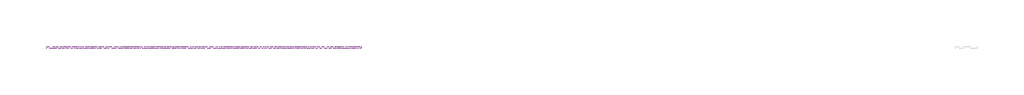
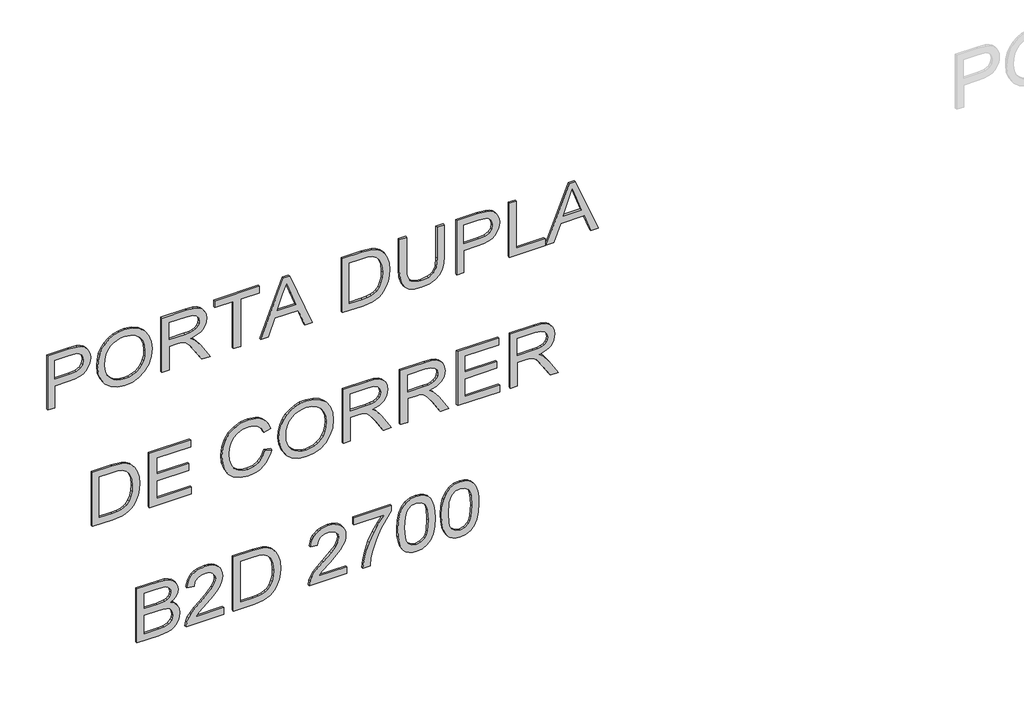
# One storey, part 10 of 13: 1 proxy.
"""IFC4 building model written with IfcOpenShell, lengths in millimetres."""

from ifc_helpers import new_model, si_unit, frame, origin, place, context, project, spatial, polyline, outline, extrude, element, save

model = new_model("IFC4")

# Units and contexts
model_context = context("Model", 3, world=origin())
ifc_project = project(units=[si_unit("LENGTHUNIT", "METRE", prefix="MILLI")], contexts=[model_context])

# Site, building, storey
site = spatial("IfcSite", under=ifc_project)
building = spatial("IfcBuilding", under=site)
storey = spatial("IfcBuildingStorey", under=building, Name="02 - Marelli - Planta Baixa - Portas", Elevation=-12000.0)

# Proxy
placement = place(None, origin())
element("IfcBuildingElementProxy", 1, Name="300mm Arial", ObjectType="300mm Arial", at=placement, inside=storey, context=model_context, shape_type="SweptSolid", body=[
    extrude(outline(polyline([(-5683.1381416, 52436.452421), (-5683.1381416, 52474.1235373), (-5560.7070137, 52474.1235373), (-5560.7070137, 52550.7165687), (-5559.0423476, 52579.9149028), (-5554.0483495, 52604.2342019), (-5545.7250194, 52623.6744661), (-5534.0723572, 52638.2356953), (-5520.0146665, 52648.8421931), (-5504.4762507, 52656.4182629), (-5487.4571099, 52660.9639049), (-5468.9572441, 52662.4791188), (-5447.5005267, 52660.2350386), (-5427.8648252, 52653.5027981), (-5411.2181649, 52643.0825406), (-5398.7285712, 52629.7744094), (-5390.0005708, 52613.2473108), (-5384.6386908, 52593.1701509), (-5381.7692112, 52548.1413947), (-5381.7692112, 52436.452421), (-5683.1381416, 52436.452421)]), holes=[polyline([(-5523.0358973, 52474.1235373), (-5419.4403275, 52474.1235373), (-5419.4403275, 52552.0409439), (-5422.0155015, 52589.7120602), (-5428.3430718, 52603.9398963), (-5439.085226, 52615.132706), (-5453.3590475, 52622.3891784), (-5470.2816192, 52624.8080025), (-5492.556874, 52620.7061183), (-5509.2035343, 52608.4004655), (-5519.5778066, 52586.3275458), (-5523.0358973, 52552.9238607), (-5523.0358973, 52474.1235373)])]), frame((0.0, 8778.3159498, 0.0), z_axis=(0.0, 1.0, 0.0), x_axis=(0.0, 0.0, 1.0)), (0.0, 0.0, 1.0), 10.0),
    extrude(outline(polyline([(-5536.426802, 52700.1502351), (-5574.971638, 52704.4544545), (-5611.4379408, 52717.3671125), (-5643.1309747, 52738.6306918), (-5667.3560041, 52767.987675), (-5682.7242744, 52803.6354404), (-5687.8470312, 52843.771366), (-5683.211718, 52881.5804381), (-5669.3057786, 52916.7223657), (-5646.3867303, 52946.6863542), (-5614.7120905, 52968.961609), (-5576.2500279, 52982.784775), (-5532.9687112, 52987.392497), (-5490.2576116, 52983.0147012), (-5452.3289779, 52969.881314), (-5420.7095204, 52948.3970055), (-5396.9259494, 52918.9664459), (-5382.0267286, 52883.5210156), (-5377.0603217, 52843.9920952), (-5379.7044735, 52813.7016115), (-5387.636929, 52786.3265925), (-5400.8576882, 52761.8670383), (-5419.3667511, 52740.322949), (-5442.5479153, 52722.7473867), (-5469.7849785, 52710.1934136), (-5501.0779408, 52702.6610297), (-5536.426802, 52700.1502351)]), holes=[polyline([(-5536.794684, 52737.8213514), (-5506.2581791, 52739.7849216), (-5480.4259653, 52745.675632), (-5459.2980424, 52755.4934828), (-5442.8744106, 52769.2384738), (-5430.5618601, 52785.7057916), (-5421.7671811, 52803.6906227), (-5416.4903738, 52823.1929669), (-5414.731438, 52844.2128244), (-5418.3826668, 52873.3766696), (-5429.3363532, 52899.5054883), (-5446.9303096, 52921.1645408), (-5470.5023484, 52936.9190872), (-5499.3259028, 52946.5208073), (-5532.6744056, 52949.7213807), (-5559.212493, 52947.8520803), (-5582.5408101, 52942.2441791), (-5602.6593567, 52932.8976772), (-5619.5681329, 52919.8125744), (-5632.9590375, 52903.830401), (-5642.5239694, 52885.7926869), (-5648.2629285, 52865.6994322), (-5650.1759149, 52843.5506368), (-5648.2813226, 52821.774322), (-5642.5975458, 52801.915592), (-5633.1245844, 52783.974447), (-5619.8624385, 52767.9508868), (-5603.3031502, 52754.7692151), (-5583.9387616, 52745.3537353), (-5561.7692729, 52739.7044474), (-5536.794684, 52737.8213514)])]), frame((0.0, 8778.3159498, 0.0), z_axis=(0.0, 1.0, 0.0), x_axis=(0.0, 0.0, 1.0)), (0.0, 0.0, 1.0), 10.0),
    extrude(outline(polyline([(-5683.1381416, 53039.1902819), (-5683.1381416, 53076.8613982), (-5551.2892346, 53076.8613982), (-5551.2892346, 53122.3316128), (-5552.6136098, 53144.1838033), (-5559.7873087, 53162.0996565), (-5579.3218426, 53182.0020724), (-5620.6717789, 53210.328986), (-5683.1381416, 53249.5452067), (-5683.1381416, 53293.3231641), (-5601.4683387, 53243.0704836), (-5562.6935764, 53212.536278), (-5546.580345, 53191.1255459), (-5536.5923489, 53228.2356422), (-5528.5771199, 53242.6175289), (-5518.547737, 53254.2173081), (-5493.9364315, 53269.5303961), (-5464.2483545, 53274.6347588), (-5440.3820101, 53271.5537471), (-5418.6677753, 53262.310712), (-5401.1565923, 53247.9081318), (-5389.8994033, 53229.3484852), (-5383.8017592, 53203.9554305), (-5381.7692112, 53169.0526262), (-5381.7692112, 53039.1902819), (-5683.1381416, 53039.1902819)]), holes=[polyline([(-5513.6181183, 53076.8613982), (-5419.4403275, 53076.8613982), (-5419.4403275, 53170.671307), (-5422.6960832, 53200.4789456), (-5432.4633501, 53221.0343521), (-5447.2706004, 53232.9813199), (-5465.6463061, 53236.9636425), (-5478.9544373, 53234.8759122), (-5491.2141048, 53228.6127212), (-5501.3492537, 53218.3304194), (-5508.2838293, 53204.1853567), (-5512.284546, 53185.3957838), (-5513.6181183, 53161.1799515), (-5513.6181183, 53076.8613982)])]), frame((0.0, 8778.3159498, 0.0), z_axis=(0.0, 1.0, 0.0), x_axis=(0.0, 0.0, 1.0)), (0.0, 0.0, 1.0), 10.0),
    extrude(outline(polyline([(-5683.1381416, 53415.9014449), (-5683.1381416, 53453.5725612), (-5419.4403275, 53453.5725612), (-5419.4403275, 53552.4592416), (-5381.7692112, 53552.4592416), (-5381.7692112, 53317.0147646), (-5419.4403275, 53317.0147646), (-5419.4403275, 53415.9014449), (-5683.1381416, 53415.9014449)])), frame((0.0, 8778.3159498, 0.0), z_axis=(0.0, 1.0, 0.0), x_axis=(0.0, 0.0, 1.0)), (0.0, 0.0, 1.0), 10.0),
    extrude(outline(polyline([(-5683.1381416, 53559.7433051), (-5683.1381416, 53599.5481369), (-5588.9603509, 53633.9818917), (-5588.9603509, 53758.1052769), (-5683.1381416, 53792.612608), (-5683.1381416, 53832.4174399), (-5381.7692112, 53712.1200275), (-5381.7692112, 53680.0407175), (-5683.1381416, 53559.7433051)]), holes=[polyline([(-5551.2892346, 53647.8142547), (-5470.7230776, 53677.3183907), (-5419.4403275, 53696.0803725), (-5477.1978007, 53717.196799), (-5551.2892346, 53744.3464902), (-5551.2892346, 53647.8142547)])]), frame((0.0, 8778.3159498, 0.0), z_axis=(0.0, 1.0, 0.0), x_axis=(0.0, 0.0, 1.0)), (0.0, 0.0, 1.0), 10.0),
    extrude(outline(polyline([(-5683.1381416, 53990.3859686), (-5683.1381416, 54099.3526156), (-5677.9877937, 54147.8026743), (-5671.6326322, 54167.3464053), (-5662.8678437, 54183.8183217), (-5651.0496346, 54198.1657195), (-5635.5342115, 54211.3358949), (-5615.8801159, 54222.777025), (-5591.6458894, 54231.9372866), (-5563.1810201, 54237.9521573), (-5530.8349956, 54239.9571141), (-5492.7592091, 54236.9956641), (-5459.171583, 54228.1113139), (-5430.6239402, 54213.2672754), (-5407.6681037, 54192.4267604), (-5394.4795341, 54172.1564624), (-5386.1102187, 54148.1337681), (-5381.7692112, 54094.3494204), (-5381.7692112, 53990.3859686), (-5683.1381416, 53990.3859686)]), holes=[polyline([(-5645.4670253, 54028.0570849), (-5419.4403275, 54028.0570849), (-5419.4403275, 54093.6872329), (-5420.9486437, 54125.435449), (-5425.4735922, 54147.1036986), (-5438.0551565, 54168.394869), (-5458.8772774, 54186.2095546), (-5489.1907538, 54198.266887), (-5530.2463845, 54202.2859978), (-5561.2312455, 54200.2350557), (-5587.2313055, 54194.0822293), (-5608.338535, 54184.250583), (-5624.6449044, 54171.163181), (-5633.4556782, 54158.986287), (-5640.0223718, 54143.2041494), (-5644.105862, 54122.290058), (-5645.4670253, 54094.7173024), (-5645.4670253, 54028.0570849)])]), frame((0.0, 8778.3159498, 0.0), z_axis=(0.0, 1.0, 0.0), x_axis=(0.0, 0.0, 1.0)), (0.0, 0.0, 1.0), 10.0),
    extrude(outline(polyline([(-5381.7692112, 54489.5282597), (-5554.3058669, 54489.5282597), (-5601.4683387, 54484.7641878), (-5618.2069695, 54478.809098), (-5630.3838635, 54470.4719723), (-5639.042886, 54459.3389434), (-5645.227902, 54444.9961441), (-5650.1759149, 54406.6812344), (-5647.6743173, 54382.5113873), (-5640.1695246, 54362.3882421), (-5628.0570099, 54346.9555924), (-5611.7322464, 54336.8572317), (-5588.1602075, 54331.2838194), (-5554.3058669, 54329.4260154), (-5381.7692112, 54329.4260154), (-5381.7692112, 54291.7548991), (-5555.6302421, 54291.7548991), (-5598.4057211, 54294.6151816), (-5631.0828393, 54303.1960291), (-5655.4458245, 54318.4631319), (-5673.2789042, 54341.3821802), (-5684.2049994, 54371.9623711), (-5687.8470312, 54410.2129015), (-5683.6623735, 54449.3187576), (-5671.1084004, 54480.1104806), (-5651.8865662, 54502.6432528), (-5627.698325, 54516.9722565), (-5596.3455819, 54524.6425961), (-5555.6302421, 54527.199376), (-5381.7692112, 54527.199376), (-5381.7692112, 54489.5282597)])), frame((0.0, 8778.3159498, 0.0), z_axis=(0.0, 1.0, 0.0), x_axis=(0.0, 0.0, 1.0)), (0.0, 0.0, 1.0), 10.0),
    extrude(outline(polyline([(-5683.1381416, 54593.1238295), (-5683.1381416, 54630.7949458), (-5560.7070137, 54630.7949458), (-5560.7070137, 54707.3879772), (-5559.0423476, 54736.5863113), (-5554.0483495, 54760.9056105), (-5545.7250194, 54780.3458746), (-5534.0723572, 54794.9071039), (-5520.0146665, 54805.5136016), (-5504.4762507, 54813.0896715), (-5487.4571099, 54817.6353134), (-5468.9572441, 54819.1505273), (-5447.5005267, 54816.9064472), (-5427.8648252, 54810.1742067), (-5411.2181649, 54799.7539491), (-5398.7285712, 54786.445818), (-5390.0005708, 54769.9187193), (-5384.6386908, 54749.8415595), (-5381.7692112, 54704.8128032), (-5381.7692112, 54593.1238295), (-5683.1381416, 54593.1238295)]), holes=[polyline([(-5523.0358973, 54630.7949458), (-5419.4403275, 54630.7949458), (-5419.4403275, 54708.7123524), (-5422.0155015, 54746.3834687), (-5428.3430718, 54760.6113049), (-5439.085226, 54771.8041146), (-5453.3590475, 54779.0605869), (-5470.2816192, 54781.479411), (-5492.556874, 54777.3775268), (-5509.2035343, 54765.0718741), (-5519.5778066, 54742.9989543), (-5523.0358973, 54709.5952692), (-5523.0358973, 54630.7949458)])]), frame((0.0, 8778.3159498, 0.0), z_axis=(0.0, 1.0, 0.0), x_axis=(0.0, 0.0, 1.0)), (0.0, 0.0, 1.0), 10.0),
    extrude(outline(polyline([(-5683.1381416, 54870.9483123), (-5683.1381416, 55059.3038938), (-5645.4670253, 55059.3038938), (-5645.4670253, 54908.6194286), (-5381.7692112, 54908.6194286), (-5381.7692112, 54870.9483123), (-5683.1381416, 54870.9483123)])), frame((0.0, 8778.3159498, 0.0), z_axis=(0.0, 1.0, 0.0), x_axis=(0.0, 0.0, 1.0)), (0.0, 0.0, 1.0), 10.0),
    extrude(outline(polyline([(-5683.1381416, 55066.5879573), (-5683.1381416, 55106.3927892), (-5588.9603509, 55140.8265439), (-5588.9603509, 55264.9499291), (-5683.1381416, 55299.4572602), (-5683.1381416, 55339.2620921), (-5381.7692112, 55218.9646797), (-5381.7692112, 55186.8853697), (-5683.1381416, 55066.5879573)]), holes=[polyline([(-5551.2892346, 55154.6589069), (-5470.7230776, 55184.163043), (-5419.4403275, 55202.9250247), (-5477.1978007, 55224.0414512), (-5551.2892346, 55251.1911425), (-5551.2892346, 55154.6589069)])]), frame((0.0, 8778.3159498, 0.0), z_axis=(0.0, 1.0, 0.0), x_axis=(0.0, 0.0, 1.0)), (0.0, 0.0, 1.0), 10.0),
    extrude(outline(polyline([(-6414.9870487, 52671.8968979), (-6414.9870487, 52780.8635449), (-6409.8367008, 52829.3136036), (-6403.4815393, 52848.8573346), (-6394.7167508, 52865.329251), (-6382.8985417, 52879.6766488), (-6367.3831185, 52892.8468242), (-6347.729023, 52904.2879542), (-6323.4947965, 52913.4482159), (-6295.0299271, 52919.4630866), (-6262.6839027, 52921.4680434), (-6224.6081162, 52918.5065934), (-6191.0204901, 52909.6222432), (-6162.4728472, 52894.7782047), (-6139.5170107, 52873.9376896), (-6126.3284412, 52853.6673917), (-6117.9591258, 52829.6446974), (-6113.6181183, 52775.8603497), (-6113.6181183, 52671.8968979), (-6414.9870487, 52671.8968979)]), holes=[polyline([(-6377.3159324, 52709.5680142), (-6151.2892346, 52709.5680142), (-6151.2892346, 52775.1981621), (-6152.7975508, 52806.9463783), (-6157.3224993, 52828.6146278), (-6169.9040635, 52849.9057983), (-6190.7261845, 52867.7204839), (-6221.0396609, 52879.7778163), (-6262.0952915, 52883.7969271), (-6293.0801526, 52881.745985), (-6319.0802126, 52875.5931586), (-6340.187442, 52865.7615123), (-6356.4938115, 52852.6741103), (-6365.3045853, 52840.4972163), (-6371.8712789, 52824.7150787), (-6375.954769, 52803.8009873), (-6377.3159324, 52776.2282317), (-6377.3159324, 52709.5680142)])]), frame((0.0, 8778.3159498, 0.0), z_axis=(0.0, 1.0, 0.0), x_axis=(0.0, 0.0, 1.0)), (0.0, 0.0, 1.0), 10.0),
    extrude(outline(polyline([(-6414.9870487, 52973.2658283), (-6414.9870487, 53194.5836366), (-6377.3159324, 53194.5836366), (-6377.3159324, 53010.9369447), (-6278.4292521, 53010.9369447), (-6278.4292521, 53180.456968), (-6240.7581358, 53180.456968), (-6240.7581358, 53010.9369447), (-6151.2892346, 53010.9369447), (-6151.2892346, 53189.8747471), (-6113.6181183, 53189.8747471), (-6113.6181183, 52973.2658283), (-6414.9870487, 52973.2658283)])), frame((0.0, 8778.3159498, 0.0), z_axis=(0.0, 1.0, 0.0), x_axis=(0.0, 0.0, 1.0)), (0.0, 0.0, 1.0), 10.0),
    extrude(outline(polyline([(-6307.8598117, 53580.7125788), (-6340.1230627, 53568.5264877), (-6363.3364166, 53548.7436334), (-6377.3527206, 53522.5412383), (-6382.024822, 53491.0965248), (-6378.5943223, 53464.1215775), (-6368.3028235, 53439.1147988), (-6351.0767491, 53418.2558897), (-6326.8425227, 53403.7245509), (-6296.7497755, 53395.1988857), (-6261.9481387, 53392.3569973), (-6233.5292546, 53394.7574273), (-6205.9564991, 53401.9587173), (-6181.5659228, 53415.0829075), (-6162.6935764, 53435.2520379), (-6150.6086529, 53461.831512), (-6146.580345, 53494.1867335), (-6150.2131797, 53522.2561297), (-6161.1116838, 53545.1016016), (-6179.956439, 53562.9438784), (-6207.428027, 53576.0036892), (-6198.4517064, 53613.6748055), (-6160.6334373, 53597.0373423), (-6145.3111522, 53585.2352281), (-6132.3801, 53571.1108587), (-6122.1115938, 53554.9309487), (-6114.7769466, 53536.9622125), (-6108.9092287, 53495.6582615), (-6113.4433743, 53457.8032042), (-6127.0458111, 53423.2590848), (-6149.3854453, 53394.1320279), (-6180.131183, 53372.5281577), (-6218.0782108, 53359.1464501), (-6262.0217151, 53354.6858809), (-6303.6843511, 53358.6314153), (-6342.5878721, 53370.4680185), (-6375.6788575, 53389.8553997), (-6399.9038869, 53416.4532679), (-6414.7479254, 53451.1537371), (-6419.6959383, 53494.8489211), (-6418.0611626, 53517.2713287), (-6413.1568358, 53537.8911145), (-6404.9829577, 53556.7082786), (-6393.5395284, 53573.7228209), (-6378.9828977, 53588.5990491), (-6361.4694155, 53601.0012708), (-6340.9990817, 53610.9294862), (-6317.5718964, 53618.3836951), (-6307.8598117, 53580.7125788)])), frame((0.0, 8778.3159498, 0.0), z_axis=(0.0, 1.0, 0.0), x_axis=(0.0, 0.0, 1.0)), (0.0, 0.0, 1.0), 10.0),
    extrude(outline(polyline([(-6268.275709, 53656.0548114), (-6306.8205451, 53660.3590307), (-6343.2868479, 53673.2716888), (-6374.9798817, 53694.5352681), (-6399.2049111, 53723.8922513), (-6414.5731815, 53759.5400166), (-6419.6959383, 53799.6759423), (-6415.0606251, 53837.4850144), (-6401.1546857, 53872.626942), (-6378.2356374, 53902.5909305), (-6346.5609976, 53924.8661853), (-6308.098935, 53938.6893512), (-6264.8176183, 53943.2970732), (-6222.1065186, 53938.9192775), (-6184.1778849, 53925.7858903), (-6152.5584275, 53904.3015817), (-6128.7748565, 53874.8710221), (-6113.8756357, 53839.4255919), (-6108.9092287, 53799.8966715), (-6111.5533806, 53769.6061877), (-6119.4858361, 53742.2311688), (-6132.7065953, 53717.7716146), (-6151.2156582, 53696.2275253), (-6174.3968224, 53678.6519629), (-6201.6338856, 53666.0979899), (-6232.9268478, 53658.565606), (-6268.275709, 53656.0548114)]), holes=[polyline([(-6268.643591, 53693.7259277), (-6238.1070862, 53695.6894978), (-6212.2748723, 53701.5802083), (-6191.1469495, 53711.398059), (-6174.7233177, 53725.1430501), (-6162.4107671, 53741.6103679), (-6153.6160882, 53759.5951989), (-6148.3392808, 53779.0975432), (-6146.580345, 53800.1174007), (-6150.2315738, 53829.2812459), (-6161.1852602, 53855.4100646), (-6178.7792167, 53877.069117), (-6202.3512555, 53892.8236635), (-6231.1748098, 53902.4253836), (-6264.5233127, 53905.6259569), (-6291.0614001, 53903.7566565), (-6314.3897171, 53898.1487554), (-6334.5082637, 53888.8022534), (-6351.41704, 53875.7171507), (-6364.8079446, 53859.7349773), (-6374.3728765, 53841.6972632), (-6380.1118356, 53821.6040085), (-6382.024822, 53799.4552131), (-6380.1302297, 53777.6788983), (-6374.4464529, 53757.8201683), (-6364.9734915, 53739.8790233), (-6351.7113455, 53723.8554631), (-6335.1520572, 53710.6737914), (-6315.7876687, 53701.2583116), (-6293.61818, 53695.6090237), (-6268.643591, 53693.7259277)])]), frame((0.0, 8778.3159498, 0.0), z_axis=(0.0, 1.0, 0.0), x_axis=(0.0, 0.0, 1.0)), (0.0, 0.0, 1.0), 10.0),
    extrude(outline(polyline([(-6414.9870487, 53995.0948581), (-6414.9870487, 54032.7659745), (-6283.1381416, 54032.7659745), (-6283.1381416, 54078.2361891), (-6284.4625168, 54100.0883796), (-6291.6362157, 54118.0042327), (-6311.1707497, 54137.9066487), (-6352.5206859, 54166.2335623), (-6414.9870487, 54205.449783), (-6414.9870487, 54249.2277404), (-6333.3172458, 54198.9750599), (-6294.5424835, 54168.4408543), (-6278.4292521, 54147.0301222), (-6268.4412559, 54184.1402184), (-6260.426027, 54198.5221052), (-6250.3966441, 54210.1218843), (-6225.7853386, 54225.4349724), (-6196.0972616, 54230.5393351), (-6172.2309172, 54227.4583234), (-6150.5166824, 54218.2152882), (-6133.0054994, 54203.8127081), (-6121.7483104, 54185.2530615), (-6115.6506663, 54159.8600067), (-6113.6181183, 54124.9572024), (-6113.6181183, 53995.0948581), (-6414.9870487, 53995.0948581)]), holes=[polyline([(-6245.4670253, 54032.7659745), (-6151.2892346, 54032.7659745), (-6151.2892346, 54126.5758832), (-6154.5449902, 54156.3835219), (-6164.3122572, 54176.9389284), (-6179.1195075, 54188.8858962), (-6197.4952132, 54192.8682188), (-6210.8033443, 54190.7804884), (-6223.0630118, 54184.5172975), (-6233.1981608, 54174.2349957), (-6240.1327364, 54160.089933), (-6244.1334531, 54141.3003601), (-6245.4670253, 54117.0845277), (-6245.4670253, 54032.7659745)])]), frame((0.0, 8778.3159498, 0.0), z_axis=(0.0, 1.0, 0.0), x_axis=(0.0, 0.0, 1.0)), (0.0, 0.0, 1.0), 10.0),
    extrude(outline(polyline([(-6414.9870487, 54296.4637886), (-6414.9870487, 54334.1349049), (-6283.1381416, 54334.1349049), (-6283.1381416, 54379.6051195), (-6284.4625168, 54401.45731), (-6291.6362157, 54419.3731632), (-6311.1707497, 54439.2755791), (-6352.5206859, 54467.6024928), (-6414.9870487, 54506.8187134), (-6414.9870487, 54550.5966709), (-6333.3172458, 54500.3439903), (-6294.5424835, 54469.8097847), (-6278.4292521, 54448.3990526), (-6268.4412559, 54485.5091489), (-6260.426027, 54499.8910356), (-6250.3966441, 54511.4908148), (-6225.7853386, 54526.8039028), (-6196.0972616, 54531.9082655), (-6172.2309172, 54528.8272538), (-6150.5166824, 54519.5842187), (-6133.0054994, 54505.1816386), (-6121.7483104, 54486.6219919), (-6115.6506663, 54461.2289372), (-6113.6181183, 54426.3261329), (-6113.6181183, 54296.4637886), (-6414.9870487, 54296.4637886)]), holes=[polyline([(-6245.4670253, 54334.1349049), (-6151.2892346, 54334.1349049), (-6151.2892346, 54427.9448137), (-6154.5449902, 54457.7524523), (-6164.3122572, 54478.3078588), (-6179.1195075, 54490.2548266), (-6197.4952132, 54494.2371492), (-6210.8033443, 54492.1494189), (-6223.0630118, 54485.8862279), (-6233.1981608, 54475.6039261), (-6240.1327364, 54461.4588634), (-6244.1334531, 54442.6692905), (-6245.4670253, 54418.4534582), (-6245.4670253, 54334.1349049)])]), frame((0.0, 8778.3159498, 0.0), z_axis=(0.0, 1.0, 0.0), x_axis=(0.0, 0.0, 1.0)), (0.0, 0.0, 1.0), 10.0),
    extrude(outline(polyline([(-6414.9870487, 54597.832719), (-6414.9870487, 54819.1505273), (-6377.3159324, 54819.1505273), (-6377.3159324, 54635.5038354), (-6278.4292521, 54635.5038354), (-6278.4292521, 54805.0238587), (-6240.7581358, 54805.0238587), (-6240.7581358, 54635.5038354), (-6151.2892346, 54635.5038354), (-6151.2892346, 54814.4416378), (-6113.6181183, 54814.4416378), (-6113.6181183, 54597.832719), (-6414.9870487, 54597.832719)])), frame((0.0, 8778.3159498, 0.0), z_axis=(0.0, 1.0, 0.0), x_axis=(0.0, 0.0, 1.0)), (0.0, 0.0, 1.0), 10.0),
    extrude(outline(polyline([(-6414.9870487, 54875.6572018), (-6414.9870487, 54913.3283181), (-6283.1381416, 54913.3283181), (-6283.1381416, 54958.7985327), (-6284.4625168, 54980.6507232), (-6291.6362157, 54998.5665764), (-6311.1707497, 55018.4689923), (-6352.5206859, 55046.795906), (-6414.9870487, 55086.0121266), (-6414.9870487, 55129.7900841), (-6333.3172458, 55079.5374035), (-6294.5424835, 55049.0031979), (-6278.4292521, 55027.5924658), (-6268.4412559, 55064.7025621), (-6260.426027, 55079.0844488), (-6250.3966441, 55090.684228), (-6225.7853386, 55105.997316), (-6196.0972616, 55111.1016787), (-6172.2309172, 55108.020667), (-6150.5166824, 55098.7776319), (-6133.0054994, 55084.3750518), (-6121.7483104, 55065.8154051), (-6115.6506663, 55040.4223504), (-6113.6181183, 55005.5195461), (-6113.6181183, 54875.6572018), (-6414.9870487, 54875.6572018)]), holes=[polyline([(-6245.4670253, 54913.3283181), (-6151.2892346, 54913.3283181), (-6151.2892346, 55007.1382269), (-6154.5449902, 55036.9458655), (-6164.3122572, 55057.501272), (-6179.1195075, 55069.4482398), (-6197.4952132, 55073.4305624), (-6210.8033443, 55071.3428321), (-6223.0630118, 55065.0796411), (-6233.1981608, 55054.7973394), (-6240.1327364, 55040.6522766), (-6244.1334531, 55021.8627037), (-6245.4670253, 54997.6468714), (-6245.4670253, 54913.3283181)])]), frame((0.0, 8778.3159498, 0.0), z_axis=(0.0, 1.0, 0.0), x_axis=(0.0, 0.0, 1.0)), (0.0, 0.0, 1.0), 10.0),
    extrude(outline(polyline([(-7146.8359558, 52907.3413748), (-7146.8359558, 53021.4583697), (-7141.6488197, 53069.7612757), (-7135.2292788, 53087.7966905), (-7126.3449287, 53102.5395614), (-7114.0760641, 53114.5784997), (-7097.5029802, 53124.5021166), (-7078.0144315, 53131.1515836), (-7056.9991726, 53133.3680726), (-7031.7808618, 53130.121514), (-7010.1310064, 53120.3818382), (-6993.1716464, 53104.6088977), (-6982.024822, 53083.2625449), (-6970.2801893, 53101.1324128), (-6955.3533773, 53113.8335387), (-6938.2928498, 53121.4211049), (-6920.1470704, 53123.9502936), (-6900.4285954, 53120.9428583), (-6881.5930373, 53111.9205523), (-6865.5809734, 53097.5915486), (-6854.3329814, 53078.66402), (-6847.6835144, 53053.969941), (-6845.4670253, 53022.3412865), (-6845.4670253, 52907.3413748), (-7146.8359558, 52907.3413748)]), holes=[polyline([(-6967.8981533, 52945.0124911), (-6883.1381416, 52945.0124911), (-6883.1381416, 53008.5824999), (-6887.074479, 53056.9957704), (-6892.6754824, 53069.4853642), (-6901.6058178, 53078.7008082), (-6913.0469479, 53084.384585), (-6926.1803351, 53086.2791773), (-6939.7091955, 53084.2466292), (-6950.7180642, 53078.1489852), (-6959.0781825, 53068.0414274), (-6964.6607918, 53053.9791381), (-6967.8981533, 53013.8064242), (-6967.8981533, 52945.0124911)]), polyline([(-7109.1648395, 52945.0124911), (-7005.5692696, 52945.0124911), (-7005.5692696, 53018.5888902), (-7006.8292655, 53045.4166846), (-7010.609253, 53065.1259625), (-7017.4978433, 53079.041099), (-7028.0836477, 53088.4864692), (-7041.6217052, 53093.8943346), (-7057.3670546, 53095.6969563), (-7070.9235061, 53094.161049), (-7082.7509122, 53089.553327), (-7099.489543, 53073.881554), (-7107.6933115, 53050.2267417), (-7109.1648395, 53022.2677101), (-7109.1648395, 52945.0124911)])]), frame((0.0, 8778.3159498, 0.0), z_axis=(0.0, 1.0, 0.0), x_axis=(0.0, 0.0, 1.0)), (0.0, 0.0, 1.0), 10.0),
    extrude(outline(polyline([(-7109.1648395, 53364.10366), (-7109.1648395, 53216.1415216), (-7089.9981875, 53233.1376697), (-7053.761811, 53276.4741688), (-7024.7451186, 53309.1696811), (-7002.1479671, 53330.4424575), (-6983.2204384, 53343.7873768), (-6965.2126148, 53352.6993182), (-6947.5082938, 53357.7209074), (-6929.491273, 53359.3947705), (-6912.338775, 53357.8427683), (-6896.6394109, 53353.1867618), (-6882.3931806, 53345.426751), (-6869.6000842, 53334.5627358), (-6859.041871, 53321.0361747), (-6851.5002901, 53305.288526), (-6846.9753415, 53287.3197898), (-6845.4670253, 53267.1299661), (-6850.8932848, 53229.2473176), (-6857.6761091, 53213.5134646), (-6867.1720631, 53199.9179256), (-6879.2523881, 53188.7182181), (-6893.7883254, 53180.1718595), (-6930.227037, 53171.039189), (-6934.9359266, 53208.7103053), (-6913.2860712, 53212.7845984), (-6896.8969283, 53224.5660192), (-6886.5778383, 53242.8221633), (-6883.1381416, 53266.3206257), (-6886.6606118, 53288.6970481), (-6897.2280221, 53306.382975), (-6912.9089921, 53317.8884844), (-6931.7721414, 53321.7236542), (-6952.8149915, 53317.6585581), (-6974.4464529, 53305.46327), (-7001.0995034, 53281.0726937), (-7037.2071212, 53240.4217332), (-7060.2641253, 53212.9225541), (-7080.8747141, 53193.2592615), (-7100.5655978, 53179.6660217), (-7120.8634869, 53170.3770014), (-7146.8359558, 53166.3302994), (-7146.8359558, 53364.10366), (-7109.1648395, 53364.10366)])), frame((0.0, 8778.3159498, 0.0), z_axis=(0.0, 1.0, 0.0), x_axis=(0.0, 0.0, 1.0)), (0.0, 0.0, 1.0), 10.0),
    extrude(outline(polyline([(-7146.8359558, 53415.9014449), (-7146.8359558, 53524.8680919), (-7141.6856079, 53573.3181507), (-7135.3304464, 53592.8618817), (-7126.5656579, 53609.333798), (-7114.7474488, 53623.6811958), (-7099.2320256, 53636.8513712), (-7079.57793, 53648.2925013), (-7055.3437036, 53657.452763), (-7026.8788342, 53663.4676336), (-6994.5328098, 53665.4725905), (-6956.4570233, 53662.5111404), (-6922.8693971, 53653.6267902), (-6894.3217543, 53638.7827517), (-6871.3659178, 53617.9422367), (-6858.1773483, 53597.6719388), (-6849.8080329, 53573.6492445), (-6845.4670253, 53519.8648968), (-6845.4670253, 53415.9014449), (-7146.8359558, 53415.9014449)]), holes=[polyline([(-7109.1648395, 53453.5725612), (-6883.1381416, 53453.5725612), (-6883.1381416, 53519.2027092), (-6884.6464578, 53550.9509254), (-6889.1714064, 53572.6191749), (-6901.7529706, 53593.9103454), (-6922.5750915, 53611.725031), (-6952.8885679, 53623.7823634), (-6993.9441986, 53627.8014742), (-7024.9290596, 53625.750532), (-7050.9291196, 53619.5977057), (-7072.0363491, 53609.7660593), (-7088.3427186, 53596.6786574), (-7097.1534923, 53584.5017633), (-7103.720186, 53568.7196257), (-7107.8036761, 53547.8055343), (-7109.1648395, 53520.2327788), (-7109.1648395, 53453.5725612)])]), frame((0.0, 8778.3159498, 0.0), z_axis=(0.0, 1.0, 0.0), x_axis=(0.0, 0.0, 1.0)), (0.0, 0.0, 1.0), 10.0),
    extrude(outline(polyline([(-7109.1648395, 54013.9304163), (-7109.1648395, 53865.9682778), (-7089.9981875, 53882.964426), (-7053.761811, 53926.300925), (-7024.7451186, 53958.9964374), (-7002.1479671, 53980.2692137), (-6983.2204384, 53993.6141331), (-6965.2126148, 54002.5260745), (-6947.5082938, 54007.5476637), (-6929.491273, 54009.2215268), (-6912.338775, 54007.6695246), (-6896.6394109, 54003.0135181), (-6882.3931806, 53995.2535073), (-6869.6000842, 53984.3894921), (-6859.041871, 53970.862931), (-6851.5002901, 53955.1152823), (-6846.9753415, 53937.1465461), (-6845.4670253, 53916.9567224), (-6850.8932848, 53879.0740739), (-6857.6761091, 53863.3402208), (-6867.1720631, 53849.7446819), (-6879.2523881, 53838.5449744), (-6893.7883254, 53829.9986158), (-6930.227037, 53820.8659452), (-6934.9359266, 53858.5370615), (-6913.2860712, 53862.6113546), (-6896.8969283, 53874.3927755), (-6886.5778383, 53892.6489195), (-6883.1381416, 53916.147382), (-6886.6606118, 53938.5238043), (-6897.2280221, 53956.2097313), (-6912.9089921, 53967.7152407), (-6931.7721414, 53971.5504105), (-6952.8149915, 53967.4853144), (-6974.4464529, 53955.2900263), (-7001.0995034, 53930.89945), (-7037.2071212, 53890.2484895), (-7060.2641253, 53862.7493104), (-7080.8747141, 53843.0860177), (-7100.5655978, 53829.492778), (-7120.8634869, 53820.2037576), (-7146.8359558, 53816.1570557), (-7146.8359558, 54013.9304163), (-7109.1648395, 54013.9304163)])), frame((0.0, 8778.3159498, 0.0), z_axis=(0.0, 1.0, 0.0), x_axis=(0.0, 0.0, 1.0)), (0.0, 0.0, 1.0), 10.0),
    extrude(outline(polyline([(-6887.8470312, 54051.6015326), (-6887.8470312, 54211.7037769), (-6923.1912939, 54182.3835819), (-6965.801226, 54154.7556441), (-7012.9361066, 54131.0916347), (-7061.8552149, 54113.6632252), (-7108.0060112, 54102.7647211), (-7146.8359558, 54098.690428), (-7146.8359558, 54136.3615443), (-7104.1064621, 54141.3647394), (-7064.9454237, 54150.3410601), (-7012.6050128, 54168.6523864), (-6961.6809476, 54193.2728889), (-6916.3119006, 54221.1859353), (-6880.6365441, 54249.3748932), (-6850.1759149, 54249.3748932), (-6850.1759149, 54051.6015326), (-6887.8470312, 54051.6015326)])), frame((0.0, 8778.3159498, 0.0), z_axis=(0.0, 1.0, 0.0), x_axis=(0.0, 0.0, 1.0)), (0.0, 0.0, 1.0), 10.0),
    extrude(outline(polyline([(-6998.5795117, 54282.33712), (-7038.0210601, 54284.2133182), (-7071.8799993, 54289.8419127), (-7100.1563291, 54299.2229036), (-7122.8500497, 54312.3562908), (-7135.4040228, 54326.041501), (-7144.3711464, 54342.081156), (-7149.7514206, 54360.4752558), (-7151.5448453, 54381.2238003), (-7147.4153699, 54411.6752324), (-7135.0269437, 54436.3693114), (-7114.241611, 54455.471584), (-7084.921416, 54469.1475971), (-7046.5421269, 54477.3697597), (-6998.5795117, 54480.1104806), (-6958.61833, 54478.3998293), (-6927.7622277, 54473.2678755), (-6903.4636219, 54465.431989), (-6883.1749298, 54455.6095397), (-6867.0341073, 54442.6049112), (-6855.17911, 54425.2224869), (-6847.8950465, 54404.4371542), (-6845.4670253, 54381.2238003), (-6849.5689096, 54350.937915), (-6861.8745623, 54326.2990184), (-6882.5771216, 54307.1691547), (-6911.8697255, 54293.410368), (-6950.3409851, 54285.105432), (-6998.5795117, 54282.33712)]), holes=[polyline([(-6998.5059353, 54320.0082363), (-6940.0126981, 54324.569973), (-6918.9330598, 54330.272144), (-6903.298075, 54338.2551832), (-6888.178125, 54357.201106), (-6883.1381416, 54380.7823419), (-6888.8587067, 54405.687953), (-6906.0204017, 54425.3696397), (-6920.3815951, 54432.8376442), (-6940.5829152, 54438.1719331), (-6998.5059353, 54442.4393643), (-7057.6705572, 54438.0247803), (-7077.9339574, 54432.5065504), (-7091.9847503, 54424.7810285), (-7108.4014843, 54405.0625536), (-7113.873729, 54381.2238003), (-7108.4198784, 54357.385047), (-7092.0583267, 54337.6665721), (-7078.0305264, 54329.9410502), (-7057.7625277, 54324.4228202), (-6998.5059353, 54320.0082363)])]), frame((0.0, 8778.3159498, 0.0), z_axis=(0.0, 1.0, 0.0), x_axis=(0.0, 0.0, 1.0)), (0.0, 0.0, 1.0), 10.0),
    extrude(outline(polyline([(-6998.5795117, 54513.0727074), (-7038.0210601, 54514.9489055), (-7071.8799993, 54520.5775001), (-7100.1563291, 54529.9584909), (-7122.8500497, 54543.0918782), (-7135.4040228, 54556.7770884), (-7144.3711464, 54572.8167434), (-7149.7514206, 54591.2108431), (-7151.5448453, 54611.9593877), (-7147.4153699, 54642.4108198), (-7135.0269437, 54667.1048987), (-7114.241611, 54686.2071713), (-7084.921416, 54699.8831845), (-7046.5421269, 54708.1053471), (-6998.5795117, 54710.846068), (-6958.61833, 54709.1354167), (-6927.7622277, 54704.0034629), (-6903.4636219, 54696.1675764), (-6883.1749298, 54686.3451271), (-6867.0341073, 54673.3404986), (-6855.17911, 54655.9580743), (-6847.8950465, 54635.1727416), (-6845.4670253, 54611.9593877), (-6849.5689096, 54581.6735024), (-6861.8745623, 54557.0346058), (-6882.5771216, 54537.904742), (-6911.8697255, 54524.1459554), (-6950.3409851, 54515.8410194), (-6998.5795117, 54513.0727074)]), holes=[polyline([(-6998.5059353, 54550.7438237), (-6940.0126981, 54555.3055604), (-6918.9330598, 54561.0077313), (-6903.298075, 54568.9907706), (-6888.178125, 54587.9366934), (-6883.1381416, 54611.5179293), (-6888.8587067, 54636.4235403), (-6906.0204017, 54656.1052271), (-6920.3815951, 54663.5732316), (-6940.5829152, 54668.9075205), (-6998.5059353, 54673.1749517), (-7057.6705572, 54668.7603677), (-7077.9339574, 54663.2421378), (-7091.9847503, 54655.5166159), (-7108.4014843, 54635.7981409), (-7113.873729, 54611.9593877), (-7108.4198784, 54588.1206344), (-7092.0583267, 54568.4021594), (-7078.0305264, 54560.6766375), (-7057.7625277, 54555.1584076), (-6998.5059353, 54550.7438237)])]), frame((0.0, 8778.3159498, 0.0), z_axis=(0.0, 1.0, 0.0), x_axis=(0.0, 0.0, 1.0)), (0.0, 0.0, 1.0), 10.0),
])

save(model, "model.ifc")
